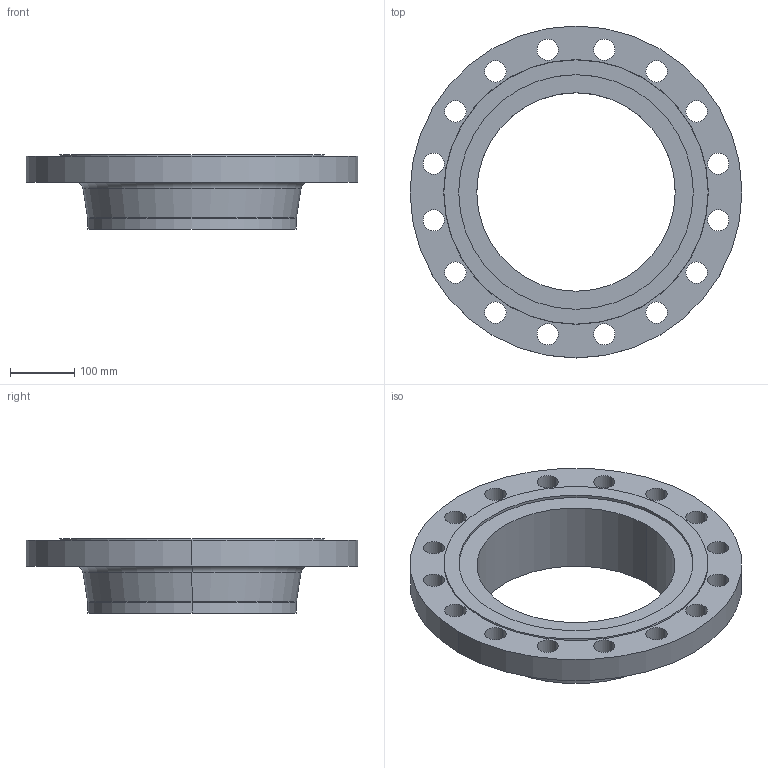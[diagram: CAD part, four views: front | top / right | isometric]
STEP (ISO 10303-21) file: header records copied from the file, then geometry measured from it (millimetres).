
FILE_DESCRIPTION (( 'STEP AP214' ), '1' );
FILE_NAME ('PN40 DN300 Type 11 - Type F Face.STEP', '2019-01-05T20:22:51', ( '' ), ( '' ), 'SwSTEP 2.0', 'SolidWorks 2019', '' );
FILE_SCHEMA (( 'AUTOMOTIVE_DESIGN' ));
Length unit declared in the file: millimetre
Products named in the file (1): PN40 DN300 Type 11 - Type F Face
Bounding box: 515 x 515 x 115 mm (x, y, z)
Volume: 5646219.1 mm3; surface area: 549195.9 mm2
Topology: 1 solids, 1 shells, 53 faces, 138 edges, 90 vertices
Faces by surface type: cylinder 40, plane 5, torus 4, cone 4
Entity records: 1780 total; most frequent: DIRECTION 340, CARTESIAN_POINT 282, ORIENTED_EDGE 276, AXIS2_PLACEMENT_3D 148, EDGE_CURVE 138, CIRCLE 94, VERTEX_POINT 90, EDGE_LOOP 90
